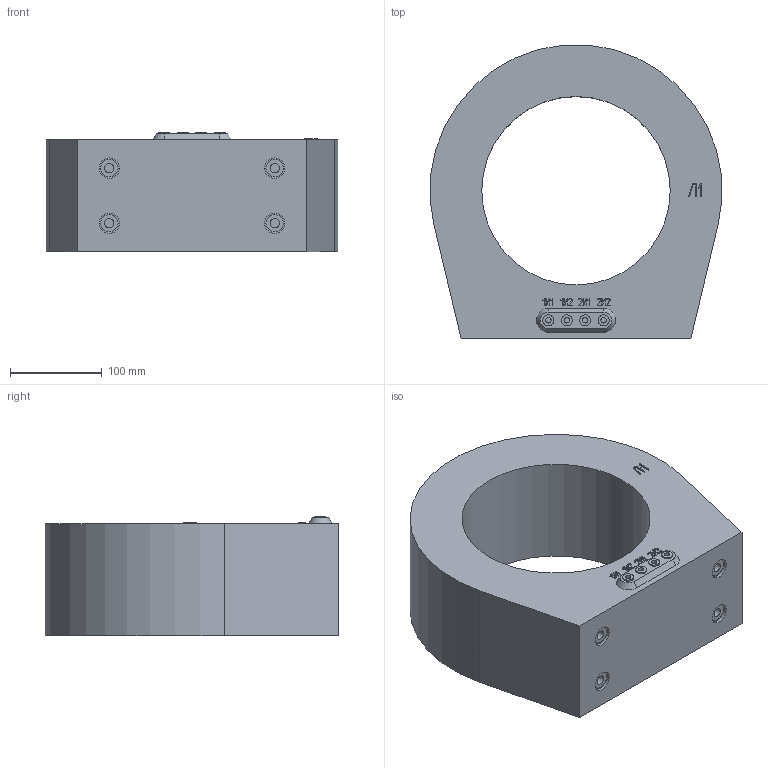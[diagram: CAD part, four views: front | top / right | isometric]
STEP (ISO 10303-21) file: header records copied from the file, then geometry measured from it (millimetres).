
FILE_DESCRIPTION(('STEP AP214'), '1');
FILE_NAME('ÒØË-ÍÒÇ-0.66-14À', '2026-07-23T05:33:57', ('Ïîëüçîâàòåëü Windows'), ('Q'), 'ASCON STEP Converter 1.3', 'ASCON Math Kernel', '');
FILE_SCHEMA(('AUTOMOTIVE_DESIGN { 1 0 10303 214 3 1 1}'));
Length unit declared in the file: millimetre
Bounding box: 317.38 x 319.41 x 130 mm (x, y, z)
Volume: 6472809.9 mm3; surface area: 320891.9 mm2
Topology: 1 solids, 1 shells, 579 faces, 1626 edges, 1084 vertices
Faces by surface type: cylinder 380, plane 197, cone 2
Full cylindrical faces by diameter (mm): 5.917 x4, 10 x4, 12 x4, 19 x4, 22 x4, 205 x1
Entity records: 23599 total; most frequent: DIRECTION 3529, CARTESIAN_POINT 3269, ORIENTED_EDGE 3210, EDGE_CURVE 1605, AXIS2_PLACEMENT_3D 1344, VERTEX_POINT 1084, LINE 841, VECTOR 841
